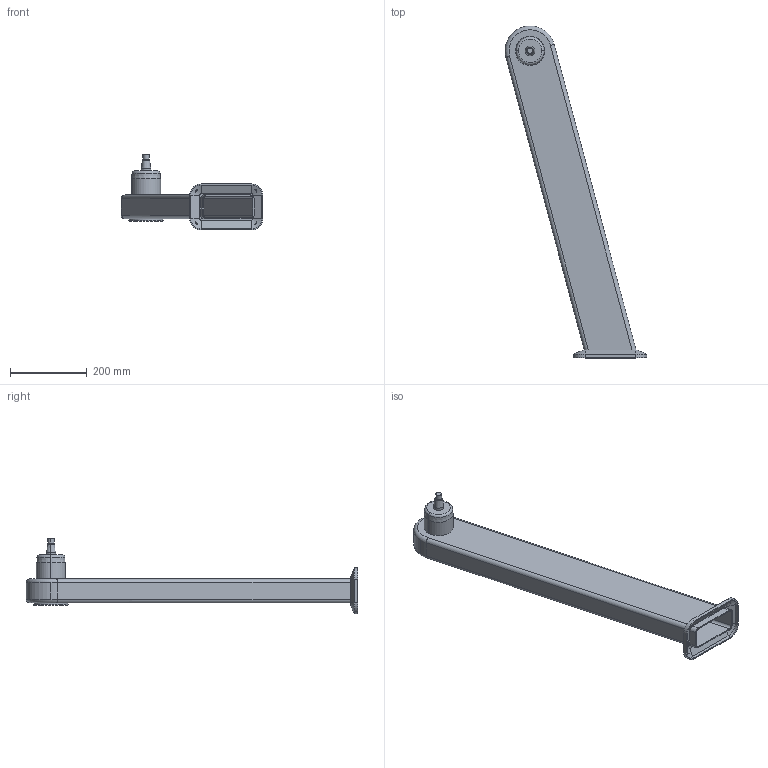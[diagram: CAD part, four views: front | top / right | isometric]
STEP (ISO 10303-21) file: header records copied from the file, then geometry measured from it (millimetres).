
FILE_DESCRIPTION (( 'STEP AP214' ), '1' );
FILE_NAME ('WP710_H800_-15.STEP', '2014-06-27T07:57:00', ( '' ), ( '' ), 'SwSTEP 2.0', 'SolidWorks 2014', '' );
FILE_SCHEMA (( 'AUTOMOTIVE_DESIGN' ));
Length unit declared in the file: millimetre
Products named in the file (1): WP710_H800_-15
Bounding box: 369.5 x 864.93 x 198 mm (x, y, z)
Volume: 1373691.8 mm3; surface area: 700955.5 mm2
Topology: 1 solids, 1 shells, 112 faces, 250 edges, 152 vertices
Faces by surface type: cylinder 44, plane 40, cone 20, torus 8
Entity records: 3211 total; most frequent: CARTESIAN_POINT 668, DIRECTION 552, ORIENTED_EDGE 500, EDGE_CURVE 250, AXIS2_PLACEMENT_3D 211, VERTEX_POINT 152, VECTOR 130, LINE 130
